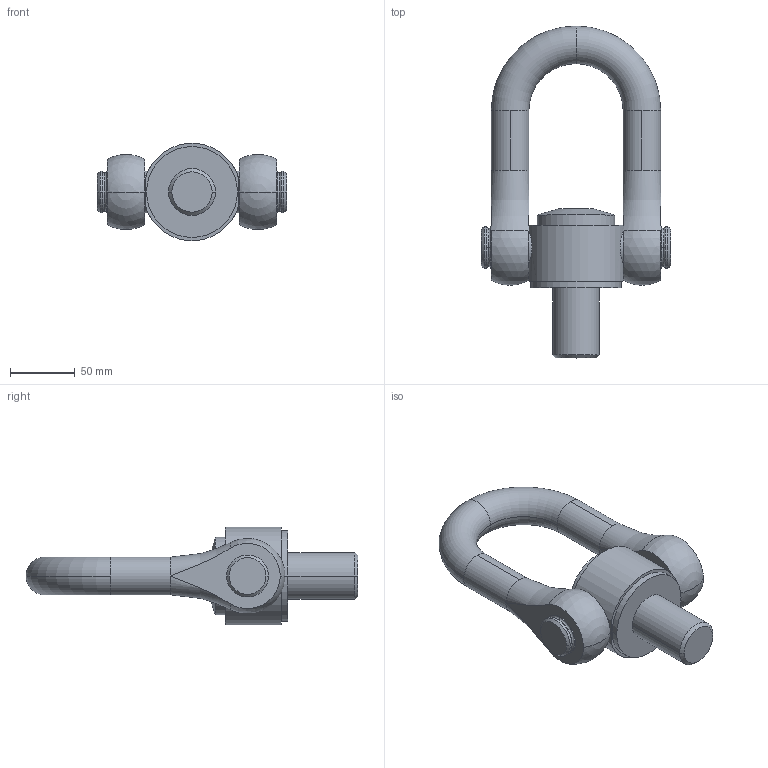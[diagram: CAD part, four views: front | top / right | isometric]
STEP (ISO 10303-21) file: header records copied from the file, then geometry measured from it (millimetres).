
FILE_DESCRIPTION( ( '' ), '1' );
FILE_NAME( 'c:/Temp/codipro/codipro_ss.dss_m36_90', '2011-05-12T08:15:35', ( '' ), ( '' ), ' ', ' ', ' ' );
FILE_SCHEMA( ( 'automotive_design' ) );
Length unit declared in the file: millimetre
Products named in the file (2): 1; 2
Bounding box: 145.5 x 255.5 x 74.72 mm (x, y, z)
Volume: 662788.7 mm3; surface area: 85168.6 mm2
Topology: 2 solids, 2 shells, 74 faces, 186 edges, 116 vertices
Faces by surface type: cylinder 24, plane 22, torus 16, cone 8, sphere 4
Entity records: 4545 total; most frequent: CARTESIAN_POINT 578, DIRECTION 432, STYLED_ITEM 374, PRESENTATION_STYLE_ASSIGNMENT 374, COLOUR_RGB 374, ORIENTED_EDGE 364, AXIS2_PLACEMENT_3D 186, EDGE_CURVE 182
